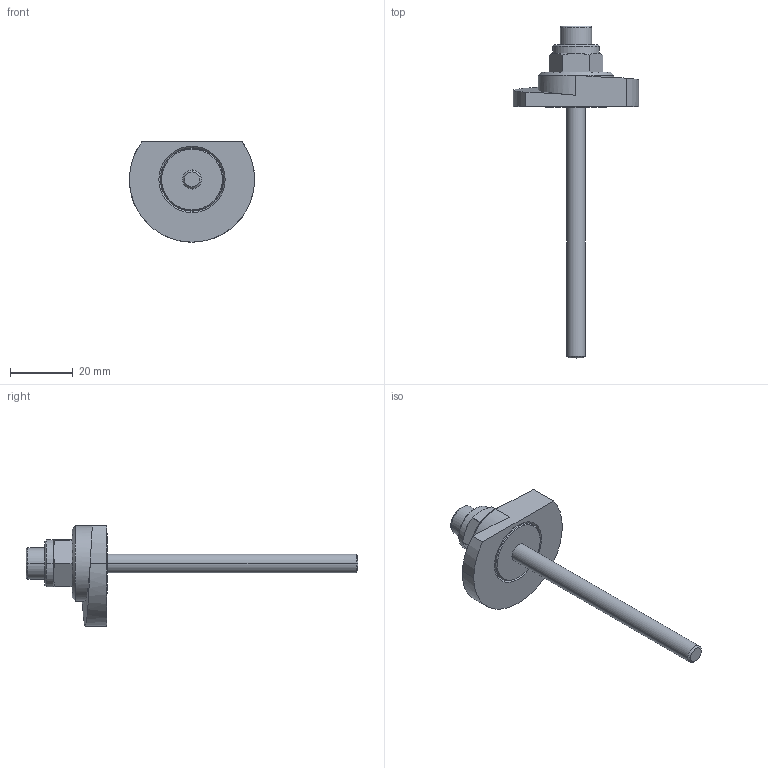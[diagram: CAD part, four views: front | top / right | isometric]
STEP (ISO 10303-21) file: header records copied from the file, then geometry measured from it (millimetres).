
FILE_DESCRIPTION (( 'STEP AP214' ), '1' );
FILE_NAME ('918.1-40-SKS-L-80.step', '2024-05-15T13:01:03', ( '' ), ( '' ), 'SwSTEP 2.0', 'SolidWorks 2022', '' );
FILE_SCHEMA (( 'AUTOMOTIVE_DESIGN' ));
Length unit declared in the file: millimetre
Products named in the file (1): 918.1-40-SKS-L-80
Bounding box: 40 x 106 x 32 mm (x, y, z)
Volume: 13211.9 mm3; surface area: 7716.4 mm2
Topology: 1 solids, 2 shells, 80 faces, 179 edges, 112 vertices
Faces by surface type: cylinder 27, plane 26, cone 22, bspline 3, torus 2
Entity records: 2599 total; most frequent: CARTESIAN_POINT 777, DIRECTION 390, ORIENTED_EDGE 358, EDGE_CURVE 179, AXIS2_PLACEMENT_3D 157, VERTEX_POINT 112, EDGE_LOOP 91, ADVANCED_FACE 80
